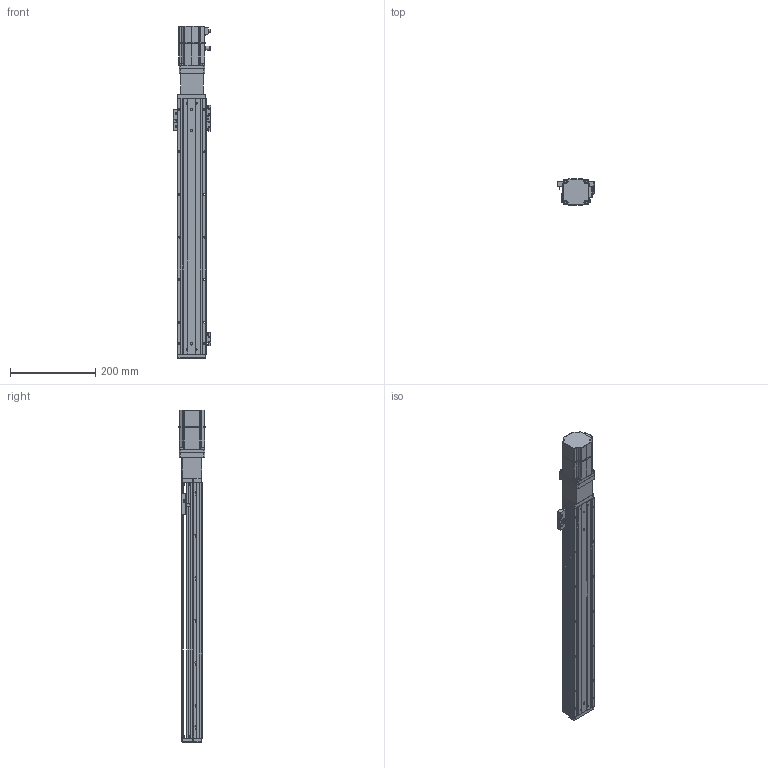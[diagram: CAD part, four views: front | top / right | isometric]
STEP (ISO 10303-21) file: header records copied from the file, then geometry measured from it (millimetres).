
FILE_DESCRIPTION (( 'STEP AP203' ), '1' );
FILE_NAME ('KTHA60-500-BC-M20-C4L.step', '2022-12-16T01:29:25', ( '微软用户' ), ( '微软中国' ), 'SwSTEP 2.0', 'SolidWorks 2020', '' );
FILE_SCHEMA (( 'CONFIG_CONTROL_DESIGN' ));
Length unit declared in the file: millimetre
Products named in the file (18): CTHA60-017; CTHA60-027; KTHA60-001_600; CTHA60-021; KTHA60-002; KTHA60-004; GBT 70.1-M4×16; CTHA60-006-3_M20B; KTHA60-005; GBT77-2000M3-3; _X2_4E0983F1_X0_200W_1; GB¨uT 70.2-M3¡Á5_M3¡Á6; GBT 70.1-M3℅6; KTHA60-500-BC-M20-C4L; GBT 70.3-M3℅6; CTHA60-016; EE_SX911P_R; CTHA60-013
Assembly tree (50 placements, depth 2):
  KTHA60-500-BC-M20-C4L
    KTHA60-001_600
    KTHA60-004
    KTHA60-005
    GB¨uT 70.2-M3¡Á5_M3¡Á6  x6
    GBT 70.3-M3℅6  x6
    EE_SX911P_R  x3
    CTHA60-017  x3
    CTHA60-021  x2
    GBT 70.1-M4×16  x8
    GBT77-2000M3-3  x6
    GBT 70.1-M3℅6  x6
    CTHA60-016  x2
    CTHA60-013
    CTHA60-027
    KTHA60-002
    CTHA60-006-3_M20B
    _X2_4E0983F1_X0_200W_1
Bounding box: 87.72 x 62.42 x 779.7 mm (x, y, z)
Volume: 1491655.4 mm3; surface area: 359199.9 mm2
Topology: 53 solids, 53 shells, 2315 faces, 5483 edges, 3356 vertices
Faces by surface type: plane 1256, cylinder 594, cone 300, torus 80, bspline 69, sphere 16
Entity records: 40831 total; most frequent: CARTESIAN_POINT 7904, DIRECTION 6378, ORIENTED_EDGE 6170, EDGE_CURVE 3085, AXIS2_PLACEMENT_3D 2183, LINE 2012, VECTOR 2012, VERTEX_POINT 1923
